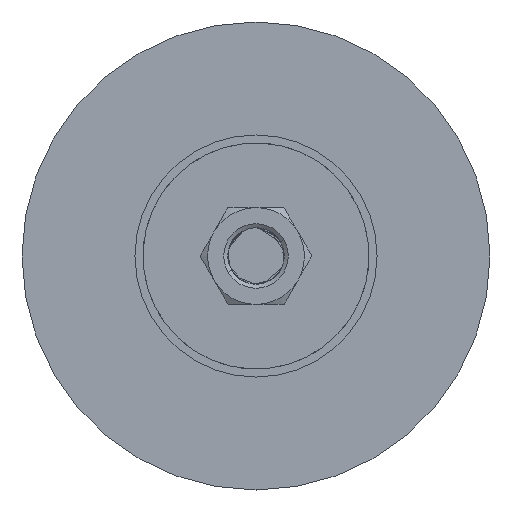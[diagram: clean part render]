
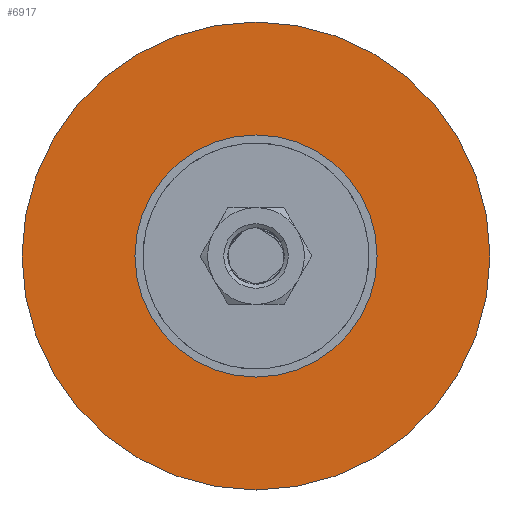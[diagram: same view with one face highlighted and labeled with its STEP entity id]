
A CAD part, left-side view. The second image highlights one B-rep face of the part: STEP entity #6917.
In plain terms, the highlighted planar face has unit normal (-1, 0, 0) as drawn and (0, 1, 0) by its records, which use the part's own axes.
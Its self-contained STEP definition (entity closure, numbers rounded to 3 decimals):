
#255 = CARTESIAN_POINT ( 'NONE',  ( 0., 68., 58. ) ) ;
#507 = VERTEX_POINT ( 'NONE', #4745 ) ;
#600 = CARTESIAN_POINT ( 'NONE',  ( 0., 68., 0. ) ) ;
#632 = PLANE ( 'NONE',  #12844 ) ;
#648 = DIRECTION ( 'NONE',  ( 0., 0., -1. ) ) ;
#832 = DIRECTION ( 'NONE',  ( 0., -1., 0. ) ) ;
#902 = EDGE_CURVE ( 'NONE', #10707, #5807, #4653, .T. ) ;
#2597 = AXIS2_PLACEMENT_3D ( 'NONE', #10926, #9759, #7623 ) ;
#2693 = DIRECTION ( 'NONE',  ( 0., 0., -1. ) ) ;
#2929 = FACE_BOUND ( 'NONE', #6770, .T. ) ;
#4589 = CIRCLE ( 'NONE', #2597, 30. ) ;
#4653 = CIRCLE ( 'NONE', #5554, 58. ) ;
#4745 = CARTESIAN_POINT ( 'NONE',  ( 0., 68., 30. ) ) ;
#5103 = DIRECTION ( 'NONE',  ( 0., 0., -1. ) ) ;
#5554 = AXIS2_PLACEMENT_3D ( 'NONE', #11371, #8368, #9385 ) ;
#5782 = CARTESIAN_POINT ( 'NONE',  ( -30., 68., 0. ) ) ;
#5807 = VERTEX_POINT ( 'NONE', #255 ) ;
#5865 = EDGE_CURVE ( 'NONE', #507, #5868, #4589, .T. ) ;
#5868 = VERTEX_POINT ( 'NONE', #10751 ) ;
#6770 = EDGE_LOOP ( 'NONE', ( #10241, #12269 ) ) ;
#6917 = ADVANCED_FACE ( 'NONE', ( #9148, #2929 ), #632, .F. ) ;
#7623 = DIRECTION ( 'NONE',  ( 0., 0., -1. ) ) ;
#8368 = DIRECTION ( 'NONE',  ( 0., -1., 0. ) ) ;
#8923 = EDGE_LOOP ( 'NONE', ( #11485, #13296 ) ) ;
#9006 = DIRECTION ( 'NONE',  ( 0., -1., 0. ) ) ;
#9148 = FACE_OUTER_BOUND ( 'NONE', #8923, .T. ) ;
#9200 = CARTESIAN_POINT ( 'NONE',  ( 0., 68., -58. ) ) ;
#9364 = AXIS2_PLACEMENT_3D ( 'NONE', #600, #9006, #648 ) ;
#9385 = DIRECTION ( 'NONE',  ( 0., 0., -1. ) ) ;
#9759 = DIRECTION ( 'NONE',  ( 0., -1., 0. ) ) ;
#10241 = ORIENTED_EDGE ( 'NONE', *, *, #12864, .T. ) ;
#10334 = CARTESIAN_POINT ( 'NONE',  ( 0., 68., 0. ) ) ;
#10688 = EDGE_CURVE ( 'NONE', #5807, #10707, #12254, .T. ) ;
#10707 = VERTEX_POINT ( 'NONE', #9200 ) ;
#10751 = CARTESIAN_POINT ( 'NONE',  ( 0., 68., -30. ) ) ;
#10926 = CARTESIAN_POINT ( 'NONE',  ( 0., 68., 0. ) ) ;
#11076 = DIRECTION ( 'NONE',  ( 0., -1., 0. ) ) ;
#11371 = CARTESIAN_POINT ( 'NONE',  ( 0., 68., 0. ) ) ;
#11485 = ORIENTED_EDGE ( 'NONE', *, *, #902, .F. ) ;
#11746 = CIRCLE ( 'NONE', #9364, 30. ) ;
#12254 = CIRCLE ( 'NONE', #13130, 58. ) ;
#12269 = ORIENTED_EDGE ( 'NONE', *, *, #5865, .T. ) ;
#12844 = AXIS2_PLACEMENT_3D ( 'NONE', #5782, #11076, #2693 ) ;
#12864 = EDGE_CURVE ( 'NONE', #5868, #507, #11746, .T. ) ;
#13130 = AXIS2_PLACEMENT_3D ( 'NONE', #10334, #832, #5103 ) ;
#13296 = ORIENTED_EDGE ( 'NONE', *, *, #10688, .F. ) ;
